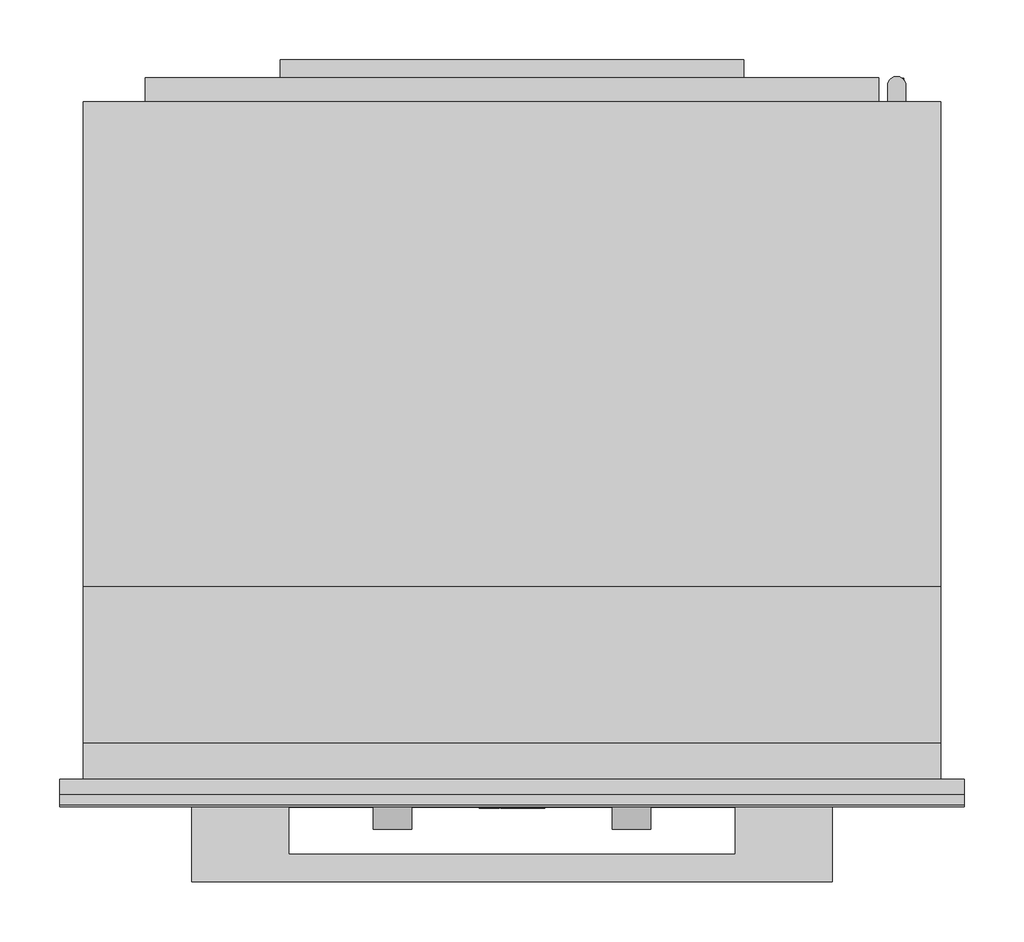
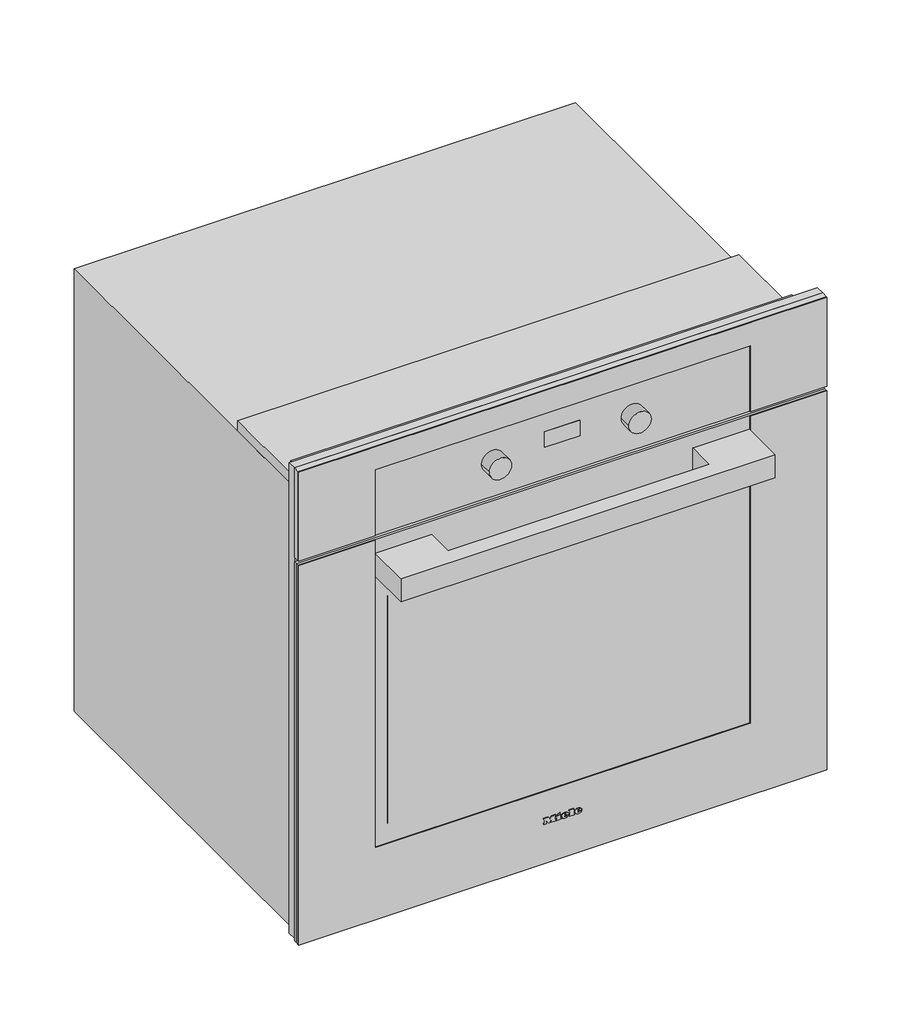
# Not in any storey: 1 proxy.
"""IFC4 building model written with IfcOpenShell, lengths in millimetres."""

from ifc_helpers import new_model, si_unit, origin, place, context, project, spatial, transform, mapped, element, save
from components import specialty_equipment_66130fa6

model = new_model("IFC4")

# Units and contexts
model_context = context("Model", 3, world=origin())
ifc_project = project(units=[si_unit("LENGTHUNIT", "METRE", prefix="MILLI")], contexts=[model_context])

# Site, building
site = spatial("IfcSite", under=ifc_project)
building = spatial("IfcBuilding", under=site)

# Proxy
placement = place(None, origin())
specialty_equipment_shape = specialty_equipment_66130fa6(model_context)
element("IfcBuildingElementProxy", 1, Name="11805320_USA_H2780BP_EDST-CLST : 22278045_USA_11805320_H2780BP_EDST-CLST", ObjectType="11805320_USA_H2780BP_EDST-CLST : 22278045_USA_11805320_H2780BP_EDST-CLST", at=placement, inside=building, context=model_context, shape_type="MappedRepresentation", body=[
    mapped(specialty_equipment_shape, transform((0.0, 0.0, 0.0), x_axis=(1.0, 0.0, 0.0), y_axis=(0.0, 1.0, 0.0), z_axis=(0.0, 0.0, 1.0))),
])

save(model, "model.ifc")
